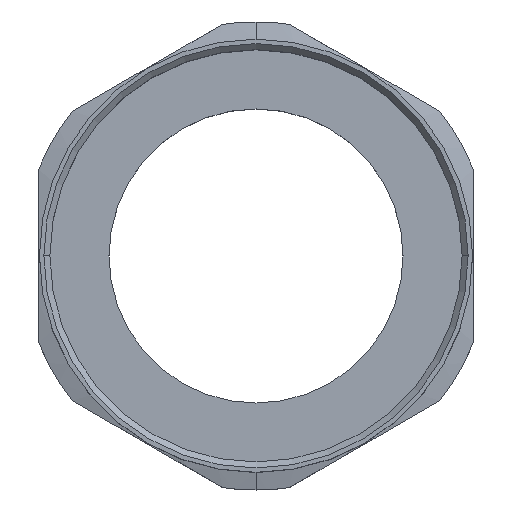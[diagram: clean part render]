
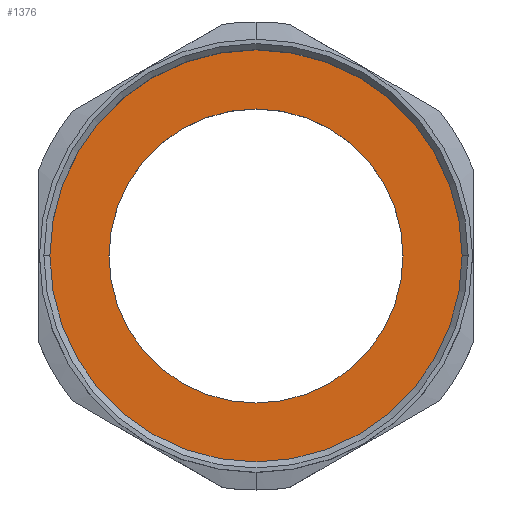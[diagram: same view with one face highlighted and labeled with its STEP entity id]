
A CAD part, top view. The second image highlights one B-rep face of the part: STEP entity #1376.
In plain terms, the highlighted planar face has unit normal (0, 0, 1).
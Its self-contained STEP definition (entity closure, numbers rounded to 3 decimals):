
#470 = DIRECTION ( 'NONE',  ( 1., 0., 0. ) ) ;
#471 = DIRECTION ( 'NONE',  ( 0., 0., 1. ) ) ;
#472 = CARTESIAN_POINT ( 'NONE',  ( 0., 0., -20. ) ) ;
#473 = AXIS2_PLACEMENT_3D ( 'NONE', #472, #471, #470 ) ;
#474 = CIRCLE ( 'NONE', #473, 30.835 ) ;
#617 = DIRECTION ( 'NONE',  ( 1., 0., 0. ) ) ;
#618 = DIRECTION ( 'NONE',  ( 0., 0., 1. ) ) ;
#619 = CARTESIAN_POINT ( 'NONE',  ( 0., 30.835, -20. ) ) ;
#620 = AXIS2_PLACEMENT_3D ( 'NONE', #619, #618, #617 ) ;
#621 = PLANE ( 'NONE',  #620 ) ;
#622 = FACE_BOUND ( 'NONE', #2125, .T. ) ;
#623 = FACE_OUTER_BOUND ( 'NONE', #1377, .T. ) ;
#724 = CARTESIAN_POINT ( 'NONE',  ( -22., 0., -20. ) ) ;
#725 = CARTESIAN_POINT ( 'NONE',  ( 22., 0., -20. ) ) ;
#726 = DIRECTION ( 'NONE',  ( 1., 0., 0. ) ) ;
#727 = DIRECTION ( 'NONE',  ( 0., 0., 1. ) ) ;
#728 = CARTESIAN_POINT ( 'NONE',  ( 0., 0., -20. ) ) ;
#729 = AXIS2_PLACEMENT_3D ( 'NONE', #728, #727, #726 ) ;
#730 = CIRCLE ( 'NONE', #729, 22. ) ;
#760 = CARTESIAN_POINT ( 'NONE',  ( 30.835, 0., -20. ) ) ;
#768 = CARTESIAN_POINT ( 'NONE',  ( -30.835, 0., -20. ) ) ;
#769 = DIRECTION ( 'NONE',  ( 1., 0., 0. ) ) ;
#770 = DIRECTION ( 'NONE',  ( 0., 0., 1. ) ) ;
#771 = CARTESIAN_POINT ( 'NONE',  ( 0., 0., -20. ) ) ;
#772 = AXIS2_PLACEMENT_3D ( 'NONE', #771, #770, #769 ) ;
#773 = CIRCLE ( 'NONE', #772, 30.835 ) ;
#1258 = EDGE_CURVE ( 'NONE', #1840, #1831, #474, .T. ) ;
#1376 = ADVANCED_FACE ( 'NONE', ( #623, #622 ), #621, .T. ) ;
#1377 = EDGE_LOOP ( 'NONE', ( #2126, #2127 ) ) ;
#1580 = CIRCLE ( 'NONE', #1638, 22. ) ;
#1635 = DIRECTION ( 'NONE',  ( 1., 0., 0. ) ) ;
#1636 = DIRECTION ( 'NONE',  ( 0., 0., 1. ) ) ;
#1637 = CARTESIAN_POINT ( 'NONE',  ( 0., 0., -20. ) ) ;
#1638 = AXIS2_PLACEMENT_3D ( 'NONE', #1637, #1636, #1635 ) ;
#1810 = EDGE_CURVE ( 'NONE', #1813, #1811, #730, .T. ) ;
#1811 = VERTEX_POINT ( 'NONE', #725 ) ;
#1813 = VERTEX_POINT ( 'NONE', #724 ) ;
#1830 = EDGE_CURVE ( 'NONE', #1831, #1840, #773, .T. ) ;
#1831 = VERTEX_POINT ( 'NONE', #768 ) ;
#1840 = VERTEX_POINT ( 'NONE', #760 ) ;
#2125 = EDGE_LOOP ( 'NONE', ( #2139, #2135 ) ) ;
#2126 = ORIENTED_EDGE ( 'NONE', *, *, #1258, .T. ) ;
#2127 = ORIENTED_EDGE ( 'NONE', *, *, #1830, .T. ) ;
#2129 = EDGE_CURVE ( 'NONE', #1811, #1813, #1580, .T. ) ;
#2135 = ORIENTED_EDGE ( 'NONE', *, *, #1810, .F. ) ;
#2139 = ORIENTED_EDGE ( 'NONE', *, *, #2129, .F. ) ;
